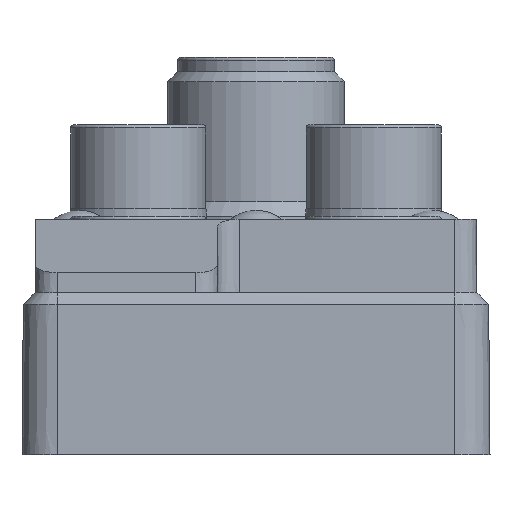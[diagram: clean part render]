
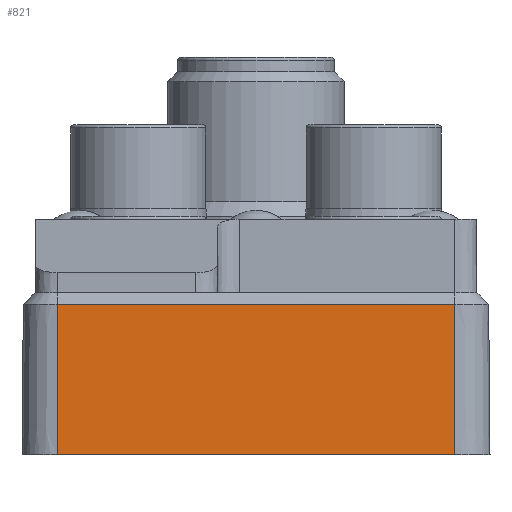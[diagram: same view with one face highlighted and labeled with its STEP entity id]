
A CAD part, front view. The second image highlights one B-rep face of the part: STEP entity #821.
In plain terms, the highlighted planar face has unit normal (0, -1, 0.009).
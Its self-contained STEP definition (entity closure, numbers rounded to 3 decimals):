
#821=ADVANCED_FACE('PLAN_FACE65',(#1466),#1215,.T.);
#1215=PLANE('',#7061);
#1466=FACE_OUTER_BOUND('',#1803,.T.);
#1803=EDGE_LOOP('',(#2840,#2841,#2842,#2843));
#2840=ORIENTED_EDGE('',*,*,#5245,.F.);
#2841=ORIENTED_EDGE('',*,*,#5244,.F.);
#2842=ORIENTED_EDGE('',*,*,#5246,.T.);
#2843=ORIENTED_EDGE('',*,*,#5247,.T.);
#4523=VERTEX_POINT('',#10692);
#4524=VERTEX_POINT('',#10694);
#4525=VERTEX_POINT('',#10698);
#4526=VERTEX_POINT('',#10700);
#5244=EDGE_CURVE('',#4524,#4523,#5999,.T.);
#5245=EDGE_CURVE('',#4523,#4525,#6000,.T.);
#5246=EDGE_CURVE('',#4524,#4526,#6001,.T.);
#5247=EDGE_CURVE('',#4526,#4525,#6002,.T.);
#5999=LINE('',#10695,#6589);
#6000=LINE('',#10697,#6590);
#6001=LINE('',#10699,#6591);
#6002=LINE('',#10701,#6592);
#6589=VECTOR('',#8326,1.);
#6590=VECTOR('',#8329,1.);
#6591=VECTOR('',#8330,1.);
#6592=VECTOR('',#8331,1.);
#7061=AXIS2_PLACEMENT_3D('',#10702,#8332,#8333);
#8326=DIRECTION('',(0.,0.009,1.));
#8329=DIRECTION('',(1.,0.,0.));
#8330=DIRECTION('',(1.,0.,0.));
#8331=DIRECTION('',(0.,0.009,1.));
#8332=DIRECTION('',(0.,-1.,0.009));
#8333=DIRECTION('',(0.,-0.009,-1.));
#10692=CARTESIAN_POINT('',(-13.5,-24.557,10.215));
#10694=CARTESIAN_POINT('',(-13.5,-24.646,0.));
#10695=CARTESIAN_POINT('',(-13.5,-24.557,10.215));
#10697=CARTESIAN_POINT('',(-13.5,-24.557,10.215));
#10698=CARTESIAN_POINT('',(13.5,-24.557,10.215));
#10699=CARTESIAN_POINT('',(-13.5,-24.646,0.));
#10700=CARTESIAN_POINT('',(13.5,-24.646,0.));
#10701=CARTESIAN_POINT('',(13.5,-24.557,10.215));
#10702=CARTESIAN_POINT('',(-15.807,-24.557,10.215));
